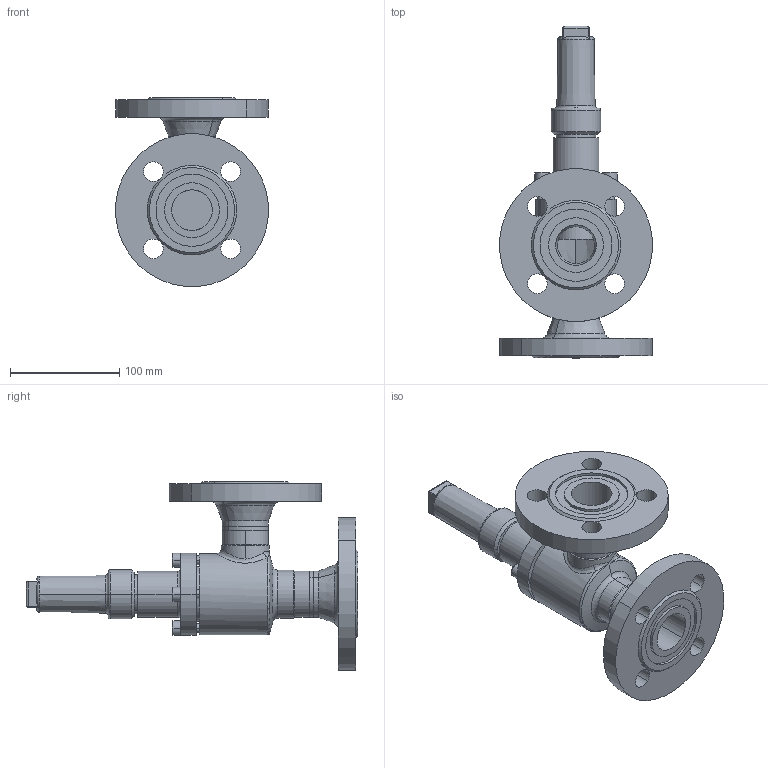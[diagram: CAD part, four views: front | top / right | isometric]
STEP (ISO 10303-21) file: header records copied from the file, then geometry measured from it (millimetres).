
FILE_DESCRIPTION (( 'STEP AP214' ), '1' );
FILE_NAME ('RVAK27420D13-DN032_DIN-FL-N_PS40.STEP', '2006-04-27T14:03:47', ( 'Herr Grams' ), ( 'AWP GmbH' ), 'SwSTEP 2.0', 'SolidWorks 2002296', '' );
FILE_SCHEMA (( 'AUTOMOTIVE_DESIGN' ));
Length unit declared in the file: millimetre
Products named in the file (10): RVAK27420D13-DN032_DIN-FL-N_PS40; Gehäuse-kpl16420-DN032_DIN_PS40_Standard; bead16420-Geh-032-2_Standard; bead16420-Geh-032-1_Standard; Gehäuse16400-DN032_Standard; Flansch-DIN2635-Nut_PS40_DIN-Flansch-DN032_PS40-Nut; RVA29300E13_Deck-Schr-DN25-32_Standard; Deckel29300E13-DN25-32_Standard; Zylinderschraube-DIN912_M 8x 25; Kappe16402_DN010-32_Standard
Assembly tree (13 placements, depth 3):
  RVAK27420D13-DN032_DIN-FL-N_PS40
    Kappe16402_DN010-32_Standard
    RVA29300E13_Deck-Schr-DN25-32_Standard
      Zylinderschraube-DIN912_M 8x 25  x4
      Deckel29300E13-DN25-32_Standard
    Gehäuse-kpl16420-DN032_DIN_PS40_Standard
      bead16420-Geh-032-1_Standard
      bead16420-Geh-032-2_Standard
      Gehäuse16400-DN032_Standard
      Flansch-DIN2635-Nut_PS40_DIN-Flansch-DN032_PS40-Nut  x2
Bounding box: 139.47 x 303.5 x 172.73 mm (x, y, z)
Volume: 890082 mm3; surface area: 190053.5 mm2
Topology: 11 solids, 11 shells, 279 faces, 630 edges, 389 vertices
Faces by surface type: cylinder 112, plane 80, cone 50, torus 27, bspline 10
Entity records: 18074 total; most frequent: CARTESIAN_POINT 13038, DIRECTION 988, ORIENTED_EDGE 880, EDGE_CURVE 440, AXIS2_PLACEMENT_3D 419, VERTEX_POINT 271, EDGE_LOOP 229, CIRCLE 218
